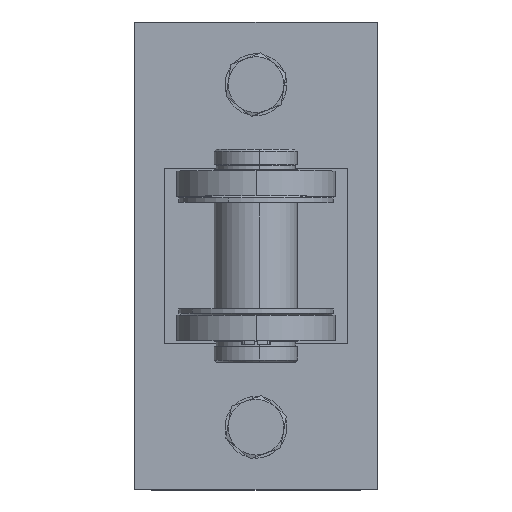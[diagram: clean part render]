
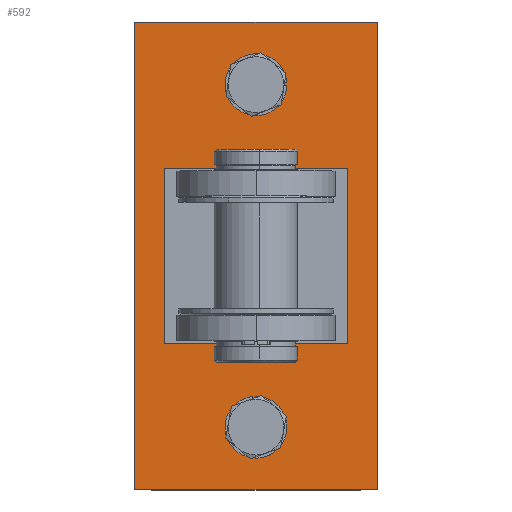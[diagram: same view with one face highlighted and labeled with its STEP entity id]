
A CAD part, top view. The second image highlights one B-rep face of the part: STEP entity #592.
In plain terms, the highlighted planar face has unit normal (0, 0, 1).
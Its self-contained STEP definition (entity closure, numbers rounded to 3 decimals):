
#2 = CARTESIAN_POINT ( 'NONE',  ( 4.5, -41., 0. ) ) ;
#22 = CARTESIAN_POINT ( 'NONE',  ( -29., -56., 0. ) ) ;
#35 = FACE_BOUND ( 'NONE', #89, .T. ) ;
#89 = EDGE_LOOP ( 'NONE', ( #2804, #2806, #2811, #2810 ) ) ;
#93 = FACE_OUTER_BOUND ( 'NONE', #290, .T. ) ;
#212 = FACE_BOUND ( 'NONE', #226, .T. ) ;
#217 = EDGE_LOOP ( 'NONE', ( #2805, #2808 ) ) ;
#226 = EDGE_LOOP ( 'NONE', ( #2802, #2803 ) ) ;
#287 = FACE_BOUND ( 'NONE', #217, .T. ) ;
#290 = EDGE_LOOP ( 'NONE', ( #2812, #2815, #2814, #2817 ) ) ;
#385 = VECTOR ( 'NONE', #752, 1000. ) ;
#387 = CIRCLE ( 'NONE', #2046, 4.5 ) ;
#398 = VECTOR ( 'NONE', #767, 1000. ) ;
#433 = VECTOR ( 'NONE', #4205, 1000. ) ;
#443 = LINE ( 'NONE', #771, #385 ) ;
#448 = LINE ( 'NONE', #748, #398 ) ;
#449 = LINE ( 'NONE', #621, #433 ) ;
#592 = ADVANCED_FACE ( 'NONE', ( #212, #287, #35, #93 ), #4315, .F. ) ;
#621 = CARTESIAN_POINT ( 'NONE',  ( 22., 21., 0. ) ) ;
#748 = CARTESIAN_POINT ( 'NONE',  ( -22., 21., 0. ) ) ;
#752 = DIRECTION ( 'NONE',  ( 1., 0., 0. ) ) ;
#767 = DIRECTION ( 'NONE',  ( 0., 1., 0. ) ) ;
#771 = CARTESIAN_POINT ( 'NONE',  ( -29., 56., 0. ) ) ;
#1071 = CARTESIAN_POINT ( 'NONE',  ( -29., 56., 0. ) ) ;
#1089 = CARTESIAN_POINT ( 'NONE',  ( -4.5, -41., 0. ) ) ;
#1105 = DIRECTION ( 'NONE',  ( 1., 0., 0. ) ) ;
#1109 = DIRECTION ( 'NONE',  ( 0., 0., -1. ) ) ;
#1120 = CARTESIAN_POINT ( 'NONE',  ( 0., -41., 0. ) ) ;
#1145 = VECTOR ( 'NONE', #1442, 1000. ) ;
#1337 = LINE ( 'NONE', #1485, #1145 ) ;
#1340 = LINE ( 'NONE', #1475, #1354 ) ;
#1354 = VECTOR ( 'NONE', #1438, 1000. ) ;
#1363 = CIRCLE ( 'NONE', #2234, 4.5 ) ;
#1438 = DIRECTION ( 'NONE',  ( -1., 0., 0. ) ) ;
#1442 = DIRECTION ( 'NONE',  ( 0., -1., 0. ) ) ;
#1475 = CARTESIAN_POINT ( 'NONE',  ( -22., -21., 0. ) ) ;
#1485 = CARTESIAN_POINT ( 'NONE',  ( 22., -21., 0. ) ) ;
#1628 = CARTESIAN_POINT ( 'NONE',  ( 29., -56., 0. ) ) ;
#1714 = EDGE_CURVE ( 'NONE', #3481, #2738, #2116, .T. ) ;
#1733 = EDGE_CURVE ( 'NONE', #2770, #3488, #2055, .T. ) ;
#1737 = EDGE_CURVE ( 'NONE', #2684, #2387, #2185, .T. ) ;
#1738 = EDGE_CURVE ( 'NONE', #2682, #2621, #2294, .T. ) ;
#1740 = EDGE_CURVE ( 'NONE', #2738, #2682, #2146, .T. ) ;
#1907 = EDGE_CURVE ( 'NONE', #3453, #3512, #448, .T. ) ;
#1908 = EDGE_CURVE ( 'NONE', #2621, #3481, #443, .T. ) ;
#1911 = EDGE_CURVE ( 'NONE', #3512, #3437, #449, .T. ) ;
#1952 = EDGE_CURVE ( 'NONE', #3488, #2770, #387, .T. ) ;
#2046 = AXIS2_PLACEMENT_3D ( 'NONE', #4135, #4129, #4125 ) ;
#2055 = CIRCLE ( 'NONE', #3554, 4.5 ) ;
#2101 = VECTOR ( 'NONE', #4711, 1000. ) ;
#2116 = LINE ( 'NONE', #4518, #2285 ) ;
#2119 = VECTOR ( 'NONE', #4708, 1000. ) ;
#2146 = LINE ( 'NONE', #4680, #2119 ) ;
#2174 = EDGE_CURVE ( 'NONE', #3437, #3143, #1337, .T. ) ;
#2182 = EDGE_CURVE ( 'NONE', #3143, #3453, #1340, .T. ) ;
#2185 = CIRCLE ( 'NONE', #3515, 4.5 ) ;
#2196 = EDGE_CURVE ( 'NONE', #2387, #2684, #1363, .T. ) ;
#2234 = AXIS2_PLACEMENT_3D ( 'NONE', #1120, #1109, #1105 ) ;
#2285 = VECTOR ( 'NONE', #4517, 1000. ) ;
#2294 = LINE ( 'NONE', #4706, #2101 ) ;
#2387 = VERTEX_POINT ( 'NONE', #1089 ) ;
#2621 = VERTEX_POINT ( 'NONE', #1071 ) ;
#2682 = VERTEX_POINT ( 'NONE', #22 ) ;
#2684 = VERTEX_POINT ( 'NONE', #2 ) ;
#2738 = VERTEX_POINT ( 'NONE', #1628 ) ;
#2770 = VERTEX_POINT ( 'NONE', #3897 ) ;
#2802 = ORIENTED_EDGE ( 'NONE', *, *, #1952, .T. ) ;
#2803 = ORIENTED_EDGE ( 'NONE', *, *, #1733, .T. ) ;
#2804 = ORIENTED_EDGE ( 'NONE', *, *, #1911, .T. ) ;
#2805 = ORIENTED_EDGE ( 'NONE', *, *, #2196, .T. ) ;
#2806 = ORIENTED_EDGE ( 'NONE', *, *, #2174, .T. ) ;
#2808 = ORIENTED_EDGE ( 'NONE', *, *, #1737, .T. ) ;
#2810 = ORIENTED_EDGE ( 'NONE', *, *, #1907, .T. ) ;
#2811 = ORIENTED_EDGE ( 'NONE', *, *, #2182, .T. ) ;
#2812 = ORIENTED_EDGE ( 'NONE', *, *, #1738, .F. ) ;
#2814 = ORIENTED_EDGE ( 'NONE', *, *, #1714, .F. ) ;
#2815 = ORIENTED_EDGE ( 'NONE', *, *, #1740, .F. ) ;
#2817 = ORIENTED_EDGE ( 'NONE', *, *, #1908, .F. ) ;
#3143 = VERTEX_POINT ( 'NONE', #3705 ) ;
#3437 = VERTEX_POINT ( 'NONE', #4008 ) ;
#3453 = VERTEX_POINT ( 'NONE', #3830 ) ;
#3481 = VERTEX_POINT ( 'NONE', #3753 ) ;
#3488 = VERTEX_POINT ( 'NONE', #3750 ) ;
#3512 = VERTEX_POINT ( 'NONE', #3779 ) ;
#3515 = AXIS2_PLACEMENT_3D ( 'NONE', #4654, #4657, #4656 ) ;
#3554 = AXIS2_PLACEMENT_3D ( 'NONE', #4664, #4665, #4663 ) ;
#3624 = AXIS2_PLACEMENT_3D ( 'NONE', #4270, #4335, #4645 ) ;
#3705 = CARTESIAN_POINT ( 'NONE',  ( 22., -21., 0. ) ) ;
#3750 = CARTESIAN_POINT ( 'NONE',  ( -4.5, 41., 0. ) ) ;
#3753 = CARTESIAN_POINT ( 'NONE',  ( 29., 56., 0. ) ) ;
#3779 = CARTESIAN_POINT ( 'NONE',  ( -22., 21., 0. ) ) ;
#3830 = CARTESIAN_POINT ( 'NONE',  ( -22., -21., 0. ) ) ;
#3897 = CARTESIAN_POINT ( 'NONE',  ( 4.5, 41., 0. ) ) ;
#4008 = CARTESIAN_POINT ( 'NONE',  ( 22., 21., 0. ) ) ;
#4125 = DIRECTION ( 'NONE',  ( 1., 0., 0. ) ) ;
#4129 = DIRECTION ( 'NONE',  ( 0., 0., -1. ) ) ;
#4135 = CARTESIAN_POINT ( 'NONE',  ( 0., 41., 0. ) ) ;
#4205 = DIRECTION ( 'NONE',  ( 1., 0., 0. ) ) ;
#4270 = CARTESIAN_POINT ( 'NONE',  ( 0., 0., 0. ) ) ;
#4315 = PLANE ( 'NONE',  #3624 ) ;
#4335 = DIRECTION ( 'NONE',  ( 0., 0., -1. ) ) ;
#4517 = DIRECTION ( 'NONE',  ( 0., -1., 0. ) ) ;
#4518 = CARTESIAN_POINT ( 'NONE',  ( 29., 56., 0. ) ) ;
#4645 = DIRECTION ( 'NONE',  ( -1., 0., 0. ) ) ;
#4654 = CARTESIAN_POINT ( 'NONE',  ( 0., -41., 0. ) ) ;
#4656 = DIRECTION ( 'NONE',  ( 1., 0., 0. ) ) ;
#4657 = DIRECTION ( 'NONE',  ( 0., 0., -1. ) ) ;
#4663 = DIRECTION ( 'NONE',  ( 1., 0., 0. ) ) ;
#4664 = CARTESIAN_POINT ( 'NONE',  ( 0., 41., 0. ) ) ;
#4665 = DIRECTION ( 'NONE',  ( 0., 0., -1. ) ) ;
#4680 = CARTESIAN_POINT ( 'NONE',  ( 29., -56., 0. ) ) ;
#4706 = CARTESIAN_POINT ( 'NONE',  ( -29., -56., 0. ) ) ;
#4708 = DIRECTION ( 'NONE',  ( -1., 0., 0. ) ) ;
#4711 = DIRECTION ( 'NONE',  ( 0., 1., 0. ) ) ;
